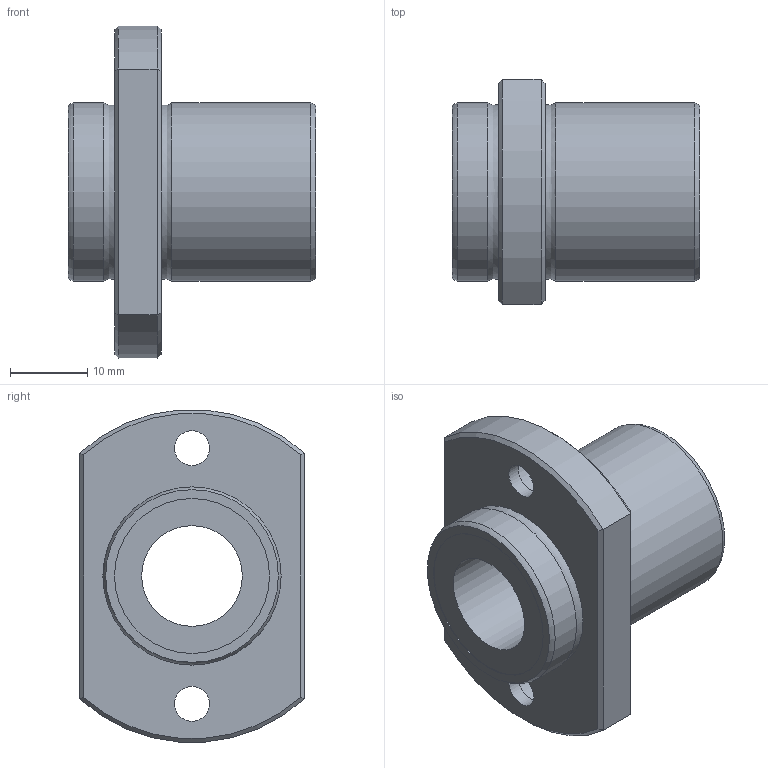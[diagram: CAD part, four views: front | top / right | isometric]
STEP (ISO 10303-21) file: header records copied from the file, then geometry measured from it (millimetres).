
FILE_DESCRIPTION((''),'2;1');
FILE_NAME('D:\製品 (図面)\カタログ用3D\リニアベアリング関連\STEP形式\LFTB\LFTB13.stp','2010-06-04T09:23:24',('Tsuchiya'),(''),'Autodesk Inventor 10','Autodesk Inventor 10','');
FILE_SCHEMA(('AUTOMOTIVE_DESIGN { 1 0 10303 214 1 1 1 1 }'));
Length unit declared in the file: millimetre
Products named in the file (1): LFTB13
Bounding box: 32 x 29 x 42.85 mm (x, y, z)
Volume: 12807.3 mm3; surface area: 6100.2 mm2
Topology: 1 solids, 1 shells, 33 faces, 63 edges, 38 vertices
Faces by surface type: plane 12, bspline 8, cylinder 7, cone 4, torus 2
Full cylindrical faces by diameter (mm): 13 x1, 20 x2, 23 x2
Entity records: 977 total; most frequent: CARTESIAN_POINT 344, DIRECTION 124, ORIENTED_EDGE 100, EDGE_LOOP 58, AXIS2_PLACEMENT_3D 56, EDGE_CURVE 50, VERTEX_POINT 38, FACE_OUTER_BOUND 33
